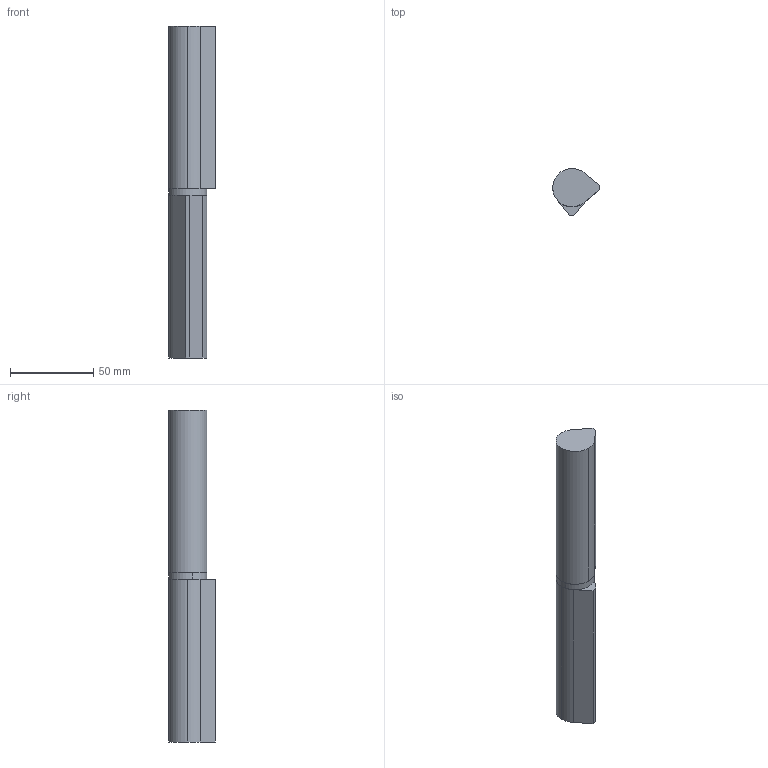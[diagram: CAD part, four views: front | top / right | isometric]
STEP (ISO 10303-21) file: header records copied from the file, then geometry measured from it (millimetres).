
FILE_DESCRIPTION (( 'STEP AP214' ), '1' );
FILE_NAME ('3.ST7-2.007.STEP', '2016-09-09T09:32:16', ( '' ), ( '' ), 'SwSTEP 2.0', 'SolidWorks 2015', '' );
FILE_SCHEMA (( 'AUTOMOTIVE_DESIGN' ));
Length unit declared in the file: millimetre
Products named in the file (4): 3.ST7-1.007.02_A; 3.ST7-2.007.01_A; 3.ST7-2.007; 3.ST7-1.007.03_A
Assembly tree (4 placements, depth 2):
  3.ST7-2.007
    3.ST7-2.007.01_A  x2
    3.ST7-1.007.02_A
    3.ST7-1.007.03_A
Bounding box: 28 x 28 x 200 mm (x, y, z)
Volume: 87518.9 mm3; surface area: 29962.4 mm2
Topology: 4 solids, 4 shells, 86 faces, 180 edges, 114 vertices
Faces by surface type: plane 42, cylinder 32, cone 12
Entity records: 2088 total; most frequent: DIRECTION 392, CARTESIAN_POINT 320, ORIENTED_EDGE 292, AXIS2_PLACEMENT_3D 167, EDGE_CURVE 146, VERTEX_POINT 95, EDGE_LOOP 89, CIRCLE 88
